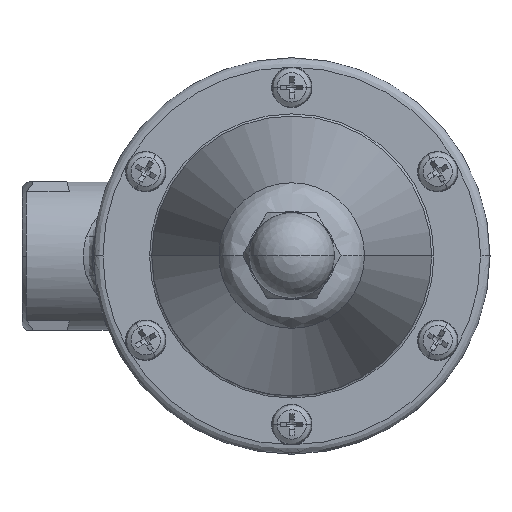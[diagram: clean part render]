
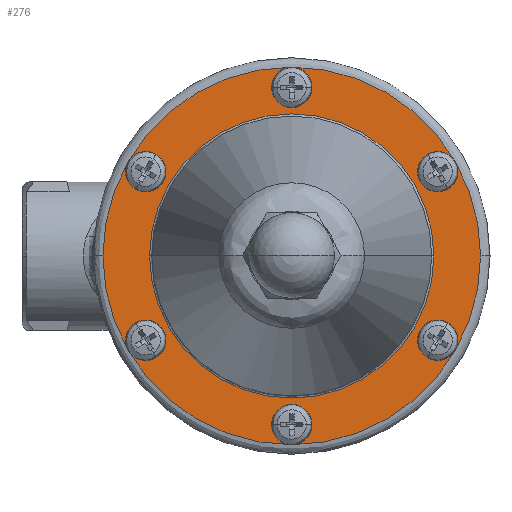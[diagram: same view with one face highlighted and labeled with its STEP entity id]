
A CAD part, top view. The second image highlights one B-rep face of the part: STEP entity #276.
In plain terms, the highlighted planar face has unit normal (0, 0, 1).
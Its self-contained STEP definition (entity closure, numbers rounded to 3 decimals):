
#276=ADVANCED_FACE('',(#1461,#1462,#1463,#1464,#1465,#1466,#1467,#1468),#1460,.T.);
#1460=PLANE('',#6495);
#1461=FACE_OUTER_BOUND('',#6496,.T.);
#1462=FACE_BOUND('',#6497,.T.);
#1463=FACE_BOUND('',#6498,.T.);
#1464=FACE_BOUND('',#6499,.T.);
#1465=FACE_BOUND('',#6500,.T.);
#1466=FACE_BOUND('',#6501,.T.);
#1467=FACE_BOUND('',#6502,.T.);
#1468=FACE_BOUND('',#6503,.T.);
#6492=CARTESIAN_POINT('',(-67.,-82.746,29.2));
#6493=DIRECTION('',(0.,0.,1.));
#6494=DIRECTION('',(1.,0.,0.));
#6495=AXIS2_PLACEMENT_3D('',#6492,#6493,#6494);
#6496=EDGE_LOOP('',(#10436,#10437));
#6497=EDGE_LOOP('',(#10438,#10439));
#6498=EDGE_LOOP('',(#10440,#10441));
#6499=EDGE_LOOP('',(#10442,#10443));
#6500=EDGE_LOOP('',(#10444,#10445));
#6501=EDGE_LOOP('',(#10446,#10447));
#6502=EDGE_LOOP('',(#10448,#10449));
#6503=EDGE_LOOP('',(#10450,#10451));
#10436=ORIENTED_EDGE('',*,*,#12499,.F.);
#10437=ORIENTED_EDGE('',*,*,#12500,.F.);
#10438=ORIENTED_EDGE('',*,*,#12501,.F.);
#10439=ORIENTED_EDGE('',*,*,#12502,.F.);
#10440=ORIENTED_EDGE('',*,*,#12503,.F.);
#10441=ORIENTED_EDGE('',*,*,#12504,.F.);
#10442=ORIENTED_EDGE('',*,*,#12505,.F.);
#10443=ORIENTED_EDGE('',*,*,#12506,.F.);
#10444=ORIENTED_EDGE('',*,*,#12507,.F.);
#10445=ORIENTED_EDGE('',*,*,#12508,.F.);
#10446=ORIENTED_EDGE('',*,*,#12509,.F.);
#10447=ORIENTED_EDGE('',*,*,#12510,.F.);
#10448=ORIENTED_EDGE('',*,*,#12511,.T.);
#10449=ORIENTED_EDGE('',*,*,#12512,.T.);
#10450=ORIENTED_EDGE('',*,*,#12513,.F.);
#10451=ORIENTED_EDGE('',*,*,#12514,.F.);
#12499=EDGE_CURVE('',#15599,#15600,#15601,.T.);
#12500=EDGE_CURVE('',#15600,#15599,#15607,.T.);
#12501=EDGE_CURVE('',#15613,#15614,#15615,.T.);
#12502=EDGE_CURVE('',#15614,#15613,#15621,.T.);
#12503=EDGE_CURVE('',#15627,#15628,#15629,.T.);
#12504=EDGE_CURVE('',#15628,#15627,#15635,.T.);
#12505=EDGE_CURVE('',#15641,#15642,#15643,.T.);
#12506=EDGE_CURVE('',#15642,#15641,#15649,.T.);
#12507=EDGE_CURVE('',#15655,#15656,#15657,.T.);
#12508=EDGE_CURVE('',#15656,#15655,#15663,.T.);
#12509=EDGE_CURVE('',#15669,#15670,#15671,.T.);
#12510=EDGE_CURVE('',#15670,#15669,#15677,.T.);
#12511=EDGE_CURVE('',#15683,#15684,#15685,.T.);
#12512=EDGE_CURVE('',#15684,#15683,#15691,.T.);
#12513=EDGE_CURVE('',#15697,#15698,#15699,.T.);
#12514=EDGE_CURVE('',#15698,#15697,#15705,.T.);
#15599=VERTEX_POINT('',#22625);
#15600=VERTEX_POINT('',#22626);
#15601=CIRCLE('',#22630,42.);
#15607=CIRCLE('',#22634,42.);
#15613=VERTEX_POINT('',#22635);
#15614=VERTEX_POINT('',#22636);
#15615=CIRCLE('',#22640,2.75);
#15621=CIRCLE('',#22644,2.75);
#15627=VERTEX_POINT('',#22645);
#15628=VERTEX_POINT('',#22646);
#15629=CIRCLE('',#22650,2.75);
#15635=CIRCLE('',#22654,2.75);
#15641=VERTEX_POINT('',#22655);
#15642=VERTEX_POINT('',#22656);
#15643=CIRCLE('',#22660,2.75);
#15649=CIRCLE('',#22664,2.75);
#15655=VERTEX_POINT('',#22665);
#15656=VERTEX_POINT('',#22666);
#15657=CIRCLE('',#22670,2.75);
#15663=CIRCLE('',#22674,2.75);
#15669=VERTEX_POINT('',#22675);
#15670=VERTEX_POINT('',#22676);
#15671=CIRCLE('',#22680,2.75);
#15677=CIRCLE('',#22684,2.75);
#15683=VERTEX_POINT('',#22685);
#15684=VERTEX_POINT('',#22686);
#15685=CIRCLE('',#22690,31.611);
#15691=CIRCLE('',#22694,31.611);
#15697=VERTEX_POINT('',#22695);
#15698=VERTEX_POINT('',#22696);
#15699=CIRCLE('',#22700,2.75);
#15705=CIRCLE('',#22704,2.75);
#22625=CARTESIAN_POINT('',(27.,0.,29.2));
#22626=CARTESIAN_POINT('',(-57.,0.,29.2));
#22627=CARTESIAN_POINT('',(-15.,0.,29.2));
#22628=DIRECTION('',(0.,0.,-1.));
#22629=DIRECTION('',(-1.,0.,0.));
#22630=AXIS2_PLACEMENT_3D('',#22627,#22628,#22629);
#22631=CARTESIAN_POINT('',(-15.,0.,29.2));
#22632=DIRECTION('',(0.,0.,-1.));
#22633=DIRECTION('',(-1.,0.,0.));
#22634=AXIS2_PLACEMENT_3D('',#22631,#22632,#22633);
#22635=CARTESIAN_POINT('',(-12.25,-37.5,29.2));
#22636=CARTESIAN_POINT('',(-17.75,-37.5,29.2));
#22637=CARTESIAN_POINT('',(-15.,-37.5,29.2));
#22638=DIRECTION('',(0.,0.,1.));
#22639=DIRECTION('',(-1.,0.,0.));
#22640=AXIS2_PLACEMENT_3D('',#22637,#22638,#22639);
#22641=CARTESIAN_POINT('',(-15.,-37.5,29.2));
#22642=DIRECTION('',(0.,0.,1.));
#22643=DIRECTION('',(-1.,0.,0.));
#22644=AXIS2_PLACEMENT_3D('',#22641,#22642,#22643);
#22645=CARTESIAN_POINT('',(20.226,-18.75,29.2));
#22646=CARTESIAN_POINT('',(14.726,-18.75,29.2));
#22647=CARTESIAN_POINT('',(17.476,-18.75,29.2));
#22648=DIRECTION('',(0.,0.,1.));
#22649=DIRECTION('',(-1.,0.,0.));
#22650=AXIS2_PLACEMENT_3D('',#22647,#22648,#22649);
#22651=CARTESIAN_POINT('',(17.476,-18.75,29.2));
#22652=DIRECTION('',(0.,0.,1.));
#22653=DIRECTION('',(-1.,0.,0.));
#22654=AXIS2_PLACEMENT_3D('',#22651,#22652,#22653);
#22655=CARTESIAN_POINT('',(20.226,18.75,29.2));
#22656=CARTESIAN_POINT('',(14.726,18.75,29.2));
#22657=CARTESIAN_POINT('',(17.476,18.75,29.2));
#22658=DIRECTION('',(0.,0.,1.));
#22659=DIRECTION('',(-1.,0.,0.));
#22660=AXIS2_PLACEMENT_3D('',#22657,#22658,#22659);
#22661=CARTESIAN_POINT('',(17.476,18.75,29.2));
#22662=DIRECTION('',(0.,0.,1.));
#22663=DIRECTION('',(-1.,0.,0.));
#22664=AXIS2_PLACEMENT_3D('',#22661,#22662,#22663);
#22665=CARTESIAN_POINT('',(-12.25,37.5,29.2));
#22666=CARTESIAN_POINT('',(-17.75,37.5,29.2));
#22667=CARTESIAN_POINT('',(-15.,37.5,29.2));
#22668=DIRECTION('',(0.,0.,1.));
#22669=DIRECTION('',(-1.,0.,0.));
#22670=AXIS2_PLACEMENT_3D('',#22667,#22668,#22669);
#22671=CARTESIAN_POINT('',(-15.,37.5,29.2));
#22672=DIRECTION('',(0.,0.,1.));
#22673=DIRECTION('',(-1.,0.,0.));
#22674=AXIS2_PLACEMENT_3D('',#22671,#22672,#22673);
#22675=CARTESIAN_POINT('',(-44.726,18.75,29.2));
#22676=CARTESIAN_POINT('',(-50.226,18.75,29.2));
#22677=CARTESIAN_POINT('',(-47.476,18.75,29.2));
#22678=DIRECTION('',(0.,0.,1.));
#22679=DIRECTION('',(-1.,0.,0.));
#22680=AXIS2_PLACEMENT_3D('',#22677,#22678,#22679);
#22681=CARTESIAN_POINT('',(-47.476,18.75,29.2));
#22682=DIRECTION('',(0.,0.,1.));
#22683=DIRECTION('',(-1.,0.,0.));
#22684=AXIS2_PLACEMENT_3D('',#22681,#22682,#22683);
#22685=CARTESIAN_POINT('',(-46.611,0.,29.2));
#22686=CARTESIAN_POINT('',(16.611,0.,29.2));
#22687=CARTESIAN_POINT('',(-15.,0.,29.2));
#22688=DIRECTION('',(0.,0.,-1.));
#22689=DIRECTION('',(-1.,0.,0.));
#22690=AXIS2_PLACEMENT_3D('',#22687,#22688,#22689);
#22691=CARTESIAN_POINT('',(-15.,0.,29.2));
#22692=DIRECTION('',(0.,0.,-1.));
#22693=DIRECTION('',(-1.,0.,0.));
#22694=AXIS2_PLACEMENT_3D('',#22691,#22692,#22693);
#22695=CARTESIAN_POINT('',(-44.726,-18.75,29.2));
#22696=CARTESIAN_POINT('',(-50.226,-18.75,29.2));
#22697=CARTESIAN_POINT('',(-47.476,-18.75,29.2));
#22698=DIRECTION('',(0.,0.,1.));
#22699=DIRECTION('',(-1.,0.,0.));
#22700=AXIS2_PLACEMENT_3D('',#22697,#22698,#22699);
#22701=CARTESIAN_POINT('',(-47.476,-18.75,29.2));
#22702=DIRECTION('',(0.,0.,1.));
#22703=DIRECTION('',(-1.,0.,0.));
#22704=AXIS2_PLACEMENT_3D('',#22701,#22702,#22703);
